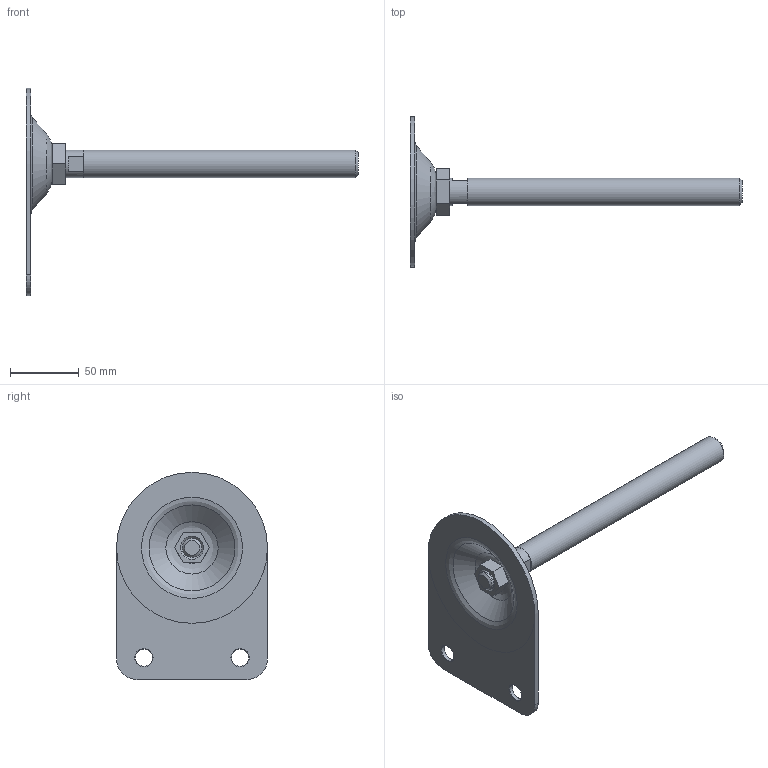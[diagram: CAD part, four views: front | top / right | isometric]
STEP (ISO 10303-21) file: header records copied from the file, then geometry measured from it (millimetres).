
FILE_DESCRIPTION(('STEP AP203'),'2;1');
FILE_NAME('15678Z-FIX.stp','2013-10-25T15:45:51',(''),(''),'2008.1.107','THINKDESIGN','');
FILE_SCHEMA(('CONFIG_CONTROL_DESIGN'));
Length unit declared in the file: millimetre
Bounding box: 242 x 110 x 151 mm (x, y, z)
Volume: 133546.5 mm3; surface area: 55703.6 mm2
Topology: 9 solids, 9 shells, 67 faces, 167 edges, 121 vertices
Faces by surface type: plane 39, bspline 14, cylinder 14
Full cylindrical faces by diameter (mm): 12.5 x2, 14 x4, 20 x4, 110 x1
Entity records: 3261 total; most frequent: CARTESIAN_POINT 1396, DIRECTION 362, ORIENTED_EDGE 332, EDGE_CURVE 166, AXIS2_PLACEMENT_3D 142, VERTEX_POINT 119, CIRCLE 89, EDGE_LOOP 79
